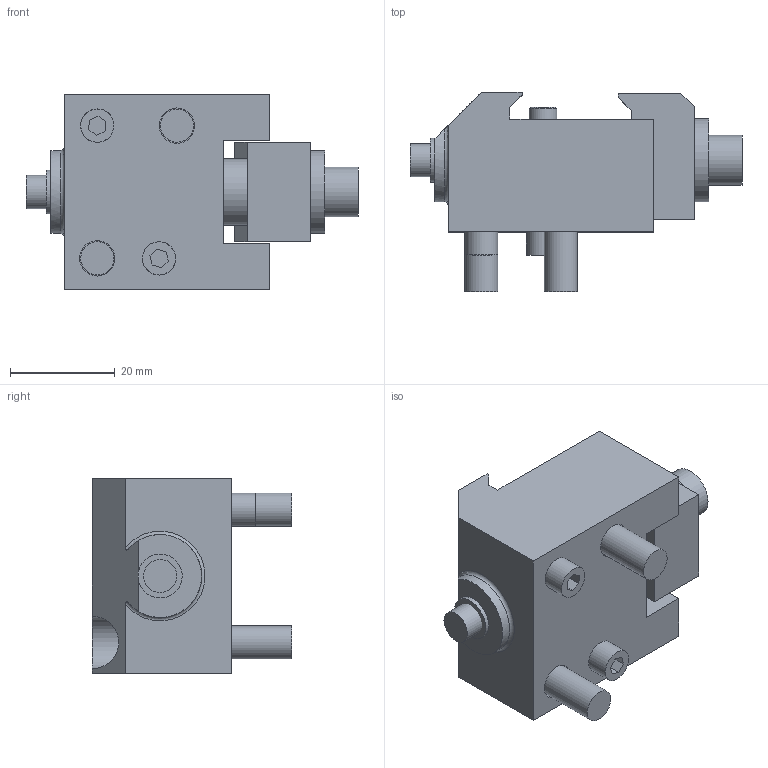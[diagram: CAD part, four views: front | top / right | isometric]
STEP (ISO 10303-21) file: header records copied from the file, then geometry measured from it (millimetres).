
FILE_DESCRIPTION (( 'STEP AP214' ), '1' );
FILE_NAME ('D115P_WEBSITE.STEP', '2025-08-19T21:36:55', ( '' ), ( '' ), 'SwSTEP 2.0', 'SolidWorks 2024', '' );
FILE_SCHEMA (( 'AUTOMOTIVE_DESIGN' ));
Length unit declared in the file: inch
Products named in the file (11): D_SLD25_WEBSITE_SLD25; D_LP250_WEBSITE_NO THREADS ; D_CDS25_WEBSITE_MILL OP2; D_HW. 73062_WEBSITE_91251A441; D_HW.LC049E05M_WEBSITE; D115P_WEBSITE; D_D115P-1_WEBSITE_FINISHED PART; D_HW.01480_WEBSITE; D_HW.0250.FW_WEBSITE_DEFAULT; D_HW.73074_WEBSITE_DEFAULT; D_LP250-208_WEBSITE_NO THREADS 
Assembly tree (12 placements, depth 2):
  D115P_WEBSITE
    D_D115P-1_WEBSITE_FINISHED PART
    D_LP250_WEBSITE_NO THREADS   x2
    D_CDS25_WEBSITE_MILL OP2
    D_SLD25_WEBSITE_SLD25
    D_HW.01480_WEBSITE
    D_HW.0250.FW_WEBSITE_DEFAULT
    D_HW.73074_WEBSITE_DEFAULT
    D_HW.LC049E05M_WEBSITE
    D_LP250-208_WEBSITE_NO THREADS 
    D_HW. 73062_WEBSITE_91251A441  x2
Bounding box: 63.5 x 38.1 x 37.34 mm (x, y, z)
Volume: 36252 mm3; surface area: 19843.4 mm2
Topology: 12 solids, 12 shells, 179 faces, 362 edges, 230 vertices
Faces by surface type: plane 111, cylinder 39, cone 24, bspline 4, torus 1
Full cylindrical faces by diameter (mm): 3.759 x3, 4.039 x2, 4.803 x3, 5 x1, 5.271 x1, 5.41 x1, 6.35 x6, 6.365 x3, 6.604 x1, 6.756 x3, 7.144 x1, 7.353 x1, 8.433 x1, 9.525 x4, 10.033 x2, 12.69 x1, 12.7 x1, 12.738 x2, 15.875 x1
Entity records: 5558 total; most frequent: CARTESIAN_POINT 2152, DIRECTION 627, ORIENTED_EDGE 502, EDGE_CURVE 251, AXIS2_PLACEMENT_3D 248, EDGE_LOOP 226, VERTEX_POINT 183, FACE_OUTER_BOUND 182
